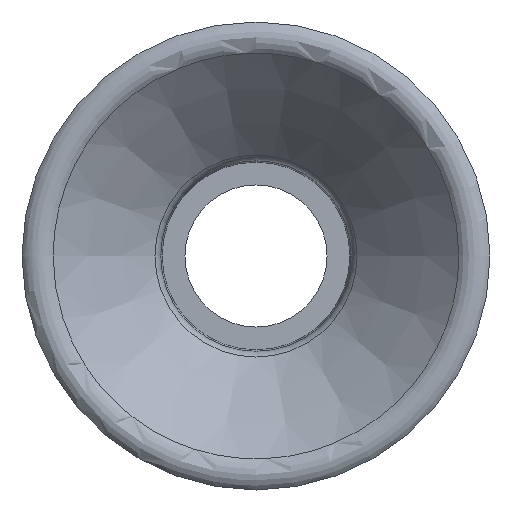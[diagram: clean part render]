
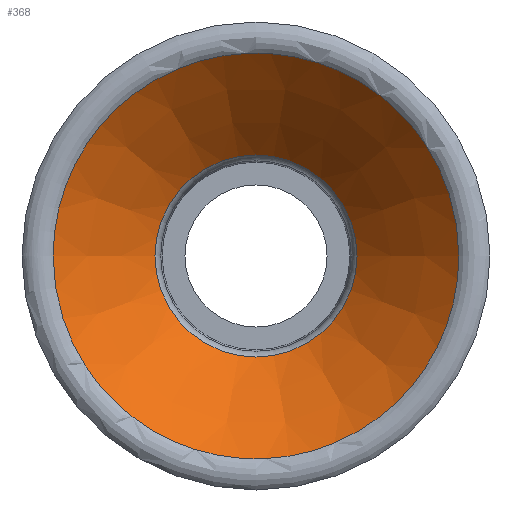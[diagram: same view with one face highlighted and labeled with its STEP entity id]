
A CAD part, front view. The second image highlights one B-rep face of the part: STEP entity #368.
In plain terms, the highlighted conical face has half-angle 44.588 degrees and reference radius 5.852 mm.
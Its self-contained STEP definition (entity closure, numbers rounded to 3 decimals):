
#21 = CARTESIAN_POINT ( 'NONE',  ( -85.025, -16.793, -1.532 ) ) ;
#25 = CARTESIAN_POINT ( 'NONE',  ( -75.729, -16.793, 4.68 ) ) ;
#50 = CARTESIAN_POINT ( 'NONE',  ( -79.325, -16.793, 0. ) ) ;
#121 = CARTESIAN_POINT ( 'NONE',  ( -80.857, -16.793, -5.7 ) ) ;
#127 = CARTESIAN_POINT ( 'NONE',  ( -80.091, -16.793, -5.852 ) ) ;
#133 = CARTESIAN_POINT ( 'NONE',  ( -76.378, -16.793, 5.113 ) ) ;
#136 = CARTESIAN_POINT ( 'NONE',  ( -74.645, -16.793, 3.596 ) ) ;
#140 = CARTESIAN_POINT ( 'NONE',  ( -85.177, -16.793, 0. ) ) ;
#175 = CARTESIAN_POINT ( 'NONE',  ( -84.005, -16.793, -3.596 ) ) ;
#178 = CARTESIAN_POINT ( 'NONE',  ( -80.091, -16.793, 5.852 ) ) ;
#191 = CARTESIAN_POINT ( 'NONE',  ( -74.212, -16.793, -2.947 ) ) ;
#223 = AXIS2_PLACEMENT_3D ( 'NONE', #50, #599, #548 ) ;
#235 = CARTESIAN_POINT ( 'NONE',  ( -74.212, -16.793, 2.947 ) ) ;
#239 = CARTESIAN_POINT ( 'NONE',  ( -84.438, -16.793, -2.947 ) ) ;
#241 = CARTESIAN_POINT ( 'NONE',  ( -85.177, -16.793, 0.766 ) ) ;
#245 = CARTESIAN_POINT ( 'NONE',  ( -85.177, -16.793, 0. ) ) ;
#257 = EDGE_LOOP ( 'NONE', ( #645 ) ) ;
#266 = CARTESIAN_POINT ( 'NONE',  ( -79.325, -13.813, 0. ) ) ;
#287 = CARTESIAN_POINT ( 'NONE',  ( -82.272, -16.793, -5.113 ) ) ;
#291 = VERTEX_POINT ( 'NONE', #693 ) ;
#295 = CARTESIAN_POINT ( 'NONE',  ( -84.005, -16.793, 3.596 ) ) ;
#334 = CARTESIAN_POINT ( 'NONE',  ( -85.177, -16.793, -0.766 ) ) ;
#340 = CARTESIAN_POINT ( 'NONE',  ( -77.793, -16.793, 5.7 ) ) ;
#352 = CARTESIAN_POINT ( 'NONE',  ( -78.559, -16.793, 5.852 ) ) ;
#361 = CIRCLE ( 'NONE', #495, 2.914 ) ;
#368 = ADVANCED_FACE ( 'NONE', ( #442, #666 ), #529, .F. ) ;
#377 = ORIENTED_EDGE ( 'NONE', *, *, #658, .F. ) ;
#392 = CARTESIAN_POINT ( 'NONE',  ( -82.272, -16.793, 5.113 ) ) ;
#396 = CARTESIAN_POINT ( 'NONE',  ( -75.729, -16.793, -4.68 ) ) ;
#398 = CARTESIAN_POINT ( 'NONE',  ( -80.857, -16.793, 5.7 ) ) ;
#400 = VERTEX_POINT ( 'NONE', #140 ) ;
#401 = CARTESIAN_POINT ( 'NONE',  ( -85.025, -16.793, 1.532 ) ) ;
#408 = DIRECTION ( 'NONE',  ( 1., 0., 0. ) ) ;
#442 = FACE_BOUND ( 'NONE', #651, .T. ) ;
#452 = CARTESIAN_POINT ( 'NONE',  ( -76.378, -16.793, -5.113 ) ) ;
#454 = CARTESIAN_POINT ( 'NONE',  ( -78.559, -16.793, -5.852 ) ) ;
#459 = EDGE_CURVE ( 'NONE', #400, #400, #573, .T. ) ;
#461 = CARTESIAN_POINT ( 'NONE',  ( -85.177, -16.793, 0. ) ) ;
#495 = AXIS2_PLACEMENT_3D ( 'NONE', #266, #688, #408 ) ;
#529 = CONICAL_SURFACE ( 'NONE', #223, 5.852, 0.778 ) ;
#548 = DIRECTION ( 'NONE',  ( 1., 0., 0. ) ) ;
#555 = CARTESIAN_POINT ( 'NONE',  ( -73.473, -16.793, 0.766 ) ) ;
#558 = CARTESIAN_POINT ( 'NONE',  ( -84.438, -16.793, 2.947 ) ) ;
#567 = CARTESIAN_POINT ( 'NONE',  ( -73.625, -16.793, 1.532 ) ) ;
#573 = B_SPLINE_CURVE_WITH_KNOTS ( 'NONE', 3,
 ( #245, #334, #21, #239, #175, #610, #287, #121, #127, #454, #624, #452, #396, #617, #191, #673, #621, #555, #567, #235, #136, #25, #133, #340, #352, #178, #398, #392, #628, #295, #558, #401, #241, #461 ),
 .UNSPECIFIED., .T., .F.,
 ( 4, 2, 2, 2, 2, 2, 2, 2, 2, 2, 2, 2, 2, 2, 2, 2, 4 ),
 ( 0., 0.062, 0.125, 0.187, 0.25, 0.313, 0.375, 0.438, 0.5, 0.563, 0.625, 0.688, 0.75, 0.813, 0.875, 0.938, 1. ),
 .UNSPECIFIED. ) ;
#599 = DIRECTION ( 'NONE',  ( 0., -1., 0. ) ) ;
#610 = CARTESIAN_POINT ( 'NONE',  ( -82.921, -16.793, -4.68 ) ) ;
#617 = CARTESIAN_POINT ( 'NONE',  ( -74.645, -16.793, -3.596 ) ) ;
#621 = CARTESIAN_POINT ( 'NONE',  ( -73.473, -16.793, -0.766 ) ) ;
#624 = CARTESIAN_POINT ( 'NONE',  ( -77.793, -16.793, -5.7 ) ) ;
#628 = CARTESIAN_POINT ( 'NONE',  ( -82.921, -16.793, 4.68 ) ) ;
#645 = ORIENTED_EDGE ( 'NONE', *, *, #459, .T. ) ;
#651 = EDGE_LOOP ( 'NONE', ( #377 ) ) ;
#658 = EDGE_CURVE ( 'NONE', #291, #291, #361, .T. ) ;
#666 = FACE_OUTER_BOUND ( 'NONE', #257, .T. ) ;
#673 = CARTESIAN_POINT ( 'NONE',  ( -73.625, -16.793, -1.532 ) ) ;
#688 = DIRECTION ( 'NONE',  ( 0., -1., 0. ) ) ;
#693 = CARTESIAN_POINT ( 'NONE',  ( -76.411, -13.813, 0. ) ) ;
